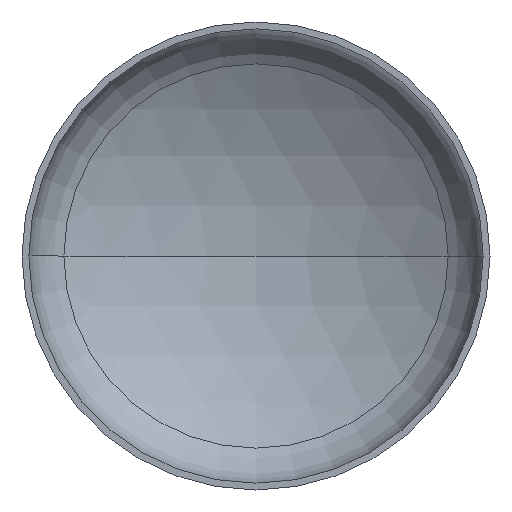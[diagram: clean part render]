
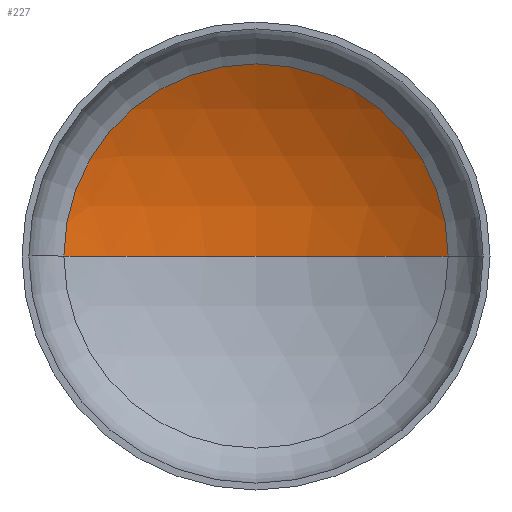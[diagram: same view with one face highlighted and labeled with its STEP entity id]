
A CAD part, front view. The second image highlights one B-rep face of the part: STEP entity #227.
In plain terms, the highlighted spherical face has radius 1040 mm.
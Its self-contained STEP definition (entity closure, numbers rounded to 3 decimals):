
#5 = EDGE_LOOP ( 'NONE', ( #32, #13, #19 ) ) ;
#13 = ORIENTED_EDGE ( 'NONE', *, *, #178, .T. ) ;
#19 = ORIENTED_EDGE ( 'NONE', *, *, #171, .T. ) ;
#30 = DIRECTION ( 'NONE',  ( 0., 0., -1. ) ) ;
#32 = ORIENTED_EDGE ( 'NONE', *, *, #195, .F. ) ;
#40 = AXIS2_PLACEMENT_3D ( 'NONE', #43, #30, #402 ) ;
#43 = CARTESIAN_POINT ( 'NONE',  ( 0., -660.999, 0. ) ) ;
#50 = AXIS2_PLACEMENT_3D ( 'NONE', #275, #271, #246 ) ;
#52 = AXIS2_PLACEMENT_3D ( 'NONE', #182, #179, #177 ) ;
#58 = AXIS2_PLACEMENT_3D ( 'NONE', #204, #206, #219 ) ;
#111 = VERTEX_POINT ( 'NONE', #362 ) ;
#112 = VERTEX_POINT ( 'NONE', #318 ) ;
#130 = VERTEX_POINT ( 'NONE', #201 ) ;
#144 = CIRCLE ( 'NONE', #52, 1040. ) ;
#153 = CIRCLE ( 'NONE', #58, 533.619 ) ;
#171 = EDGE_CURVE ( 'NONE', #130, #111, #153, .T. ) ;
#177 = DIRECTION ( 'NONE',  ( 1., 0., 0. ) ) ;
#178 = EDGE_CURVE ( 'NONE', #112, #130, #211, .T. ) ;
#179 = DIRECTION ( 'NONE',  ( 0., 0., 1. ) ) ;
#182 = CARTESIAN_POINT ( 'NONE',  ( 0., -660.999, 0. ) ) ;
#195 = EDGE_CURVE ( 'NONE', #112, #111, #144, .T. ) ;
#201 = CARTESIAN_POINT ( 'NONE',  ( 533.619, 231.666, 0. ) ) ;
#204 = CARTESIAN_POINT ( 'NONE',  ( 0., 231.666, 0. ) ) ;
#206 = DIRECTION ( 'NONE',  ( 0., -1., 0. ) ) ;
#211 = CIRCLE ( 'NONE', #50, 1040. ) ;
#219 = DIRECTION ( 'NONE',  ( 1., 0., 0. ) ) ;
#227 = ADVANCED_FACE ( 'NONE', ( #331 ), #387, .F. ) ;
#246 = DIRECTION ( 'NONE',  ( -1., 0., 0. ) ) ;
#271 = DIRECTION ( 'NONE',  ( 0., 0., -1. ) ) ;
#275 = CARTESIAN_POINT ( 'NONE',  ( 0., -660.999, 0. ) ) ;
#318 = CARTESIAN_POINT ( 'NONE',  ( 0., 379.001, 0. ) ) ;
#331 = FACE_OUTER_BOUND ( 'NONE', #5, .T. ) ;
#362 = CARTESIAN_POINT ( 'NONE',  ( -533.619, 231.666, 0. ) ) ;
#387 = SPHERICAL_SURFACE ( 'NONE', #40, 1040. ) ;
#402 = DIRECTION ( 'NONE',  ( -1., 0., 0. ) ) ;
